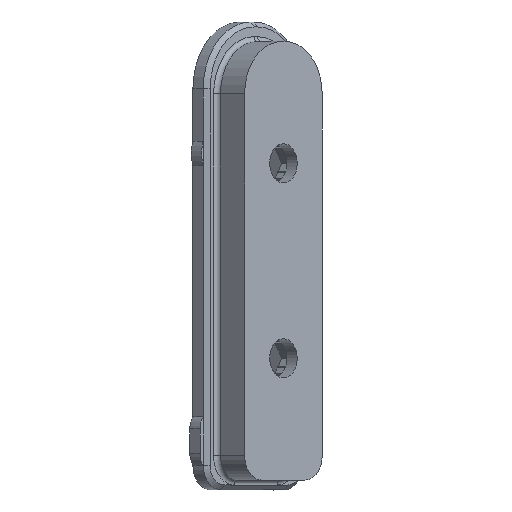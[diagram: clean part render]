
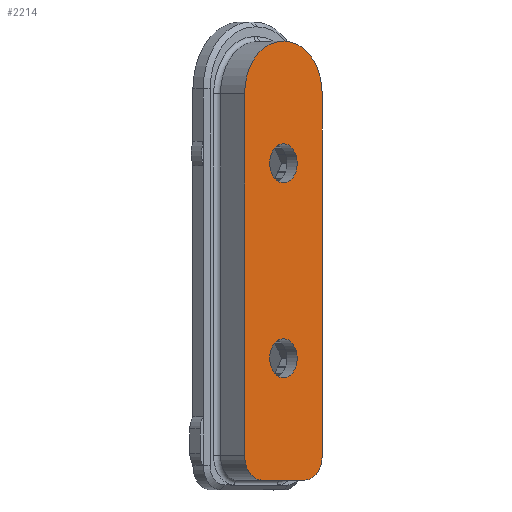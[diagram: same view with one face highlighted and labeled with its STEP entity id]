
A CAD part, top view. The second image highlights one B-rep face of the part: STEP entity #2214.
In plain terms, the highlighted planar face has unit normal (0.707, 0, 0.707).
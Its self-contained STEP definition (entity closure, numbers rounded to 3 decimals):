
#34 = DIRECTION ( 'NONE',  ( -0.707, 0., 0.707 ) ) ;
#61 = AXIS2_PLACEMENT_3D ( 'NONE', #611, #296, #233 ) ;
#142 = CIRCLE ( 'NONE', #712, 4. ) ;
#178 = ORIENTED_EDGE ( 'NONE', *, *, #2998, .F. ) ;
#192 = ORIENTED_EDGE ( 'NONE', *, *, #1647, .F. ) ;
#193 = EDGE_CURVE ( 'NONE', #3113, #2777, #3304, .T. ) ;
#232 = CARTESIAN_POINT ( 'NONE',  ( -15.698, 504.5, 11.455 ) ) ;
#233 = DIRECTION ( 'NONE',  ( -0.707, 0., 0.707 ) ) ;
#241 = EDGE_CURVE ( 'NONE', #2848, #2777, #299, .T. ) ;
#271 = VECTOR ( 'NONE', #3344, 1000. ) ;
#296 = DIRECTION ( 'NONE',  ( -0.707, 0., -0.707 ) ) ;
#299 = LINE ( 'NONE', #2806, #271 ) ;
#322 = ORIENTED_EDGE ( 'NONE', *, *, #3849, .F. ) ;
#374 = ORIENTED_EDGE ( 'NONE', *, *, #193, .T. ) ;
#393 = FACE_OUTER_BOUND ( 'NONE', #2443, .T. ) ;
#507 = CARTESIAN_POINT ( 'NONE',  ( -19.233, 509.5, 14.991 ) ) ;
#508 = AXIS2_PLACEMENT_3D ( 'NONE', #1641, #1312, #2911 ) ;
#611 = CARTESIAN_POINT ( 'NONE',  ( -23.653, 569.5, 19.41 ) ) ;
#616 = LINE ( 'NONE', #2979, #2746 ) ;
#647 = VERTEX_POINT ( 'NONE', #1062 ) ;
#703 = AXIS2_PLACEMENT_3D ( 'NONE', #1558, #892, #827 ) ;
#712 = AXIS2_PLACEMENT_3D ( 'NONE', #3446, #1930, #3624 ) ;
#827 = DIRECTION ( 'NONE',  ( -0.707, 0., 0.707 ) ) ;
#892 = DIRECTION ( 'NONE',  ( -0.707, 0., -0.707 ) ) ;
#1033 = CARTESIAN_POINT ( 'NONE',  ( -23.299, 583.75, 19.057 ) ) ;
#1062 = CARTESIAN_POINT ( 'NONE',  ( -15.698, 509.5, 11.455 ) ) ;
#1099 = EDGE_CURVE ( 'NONE', #3113, #1521, #1448, .T. ) ;
#1162 = CARTESIAN_POINT ( 'NONE',  ( -31.608, 583.75, 27.365 ) ) ;
#1241 = CARTESIAN_POINT ( 'NONE',  ( -26.481, 529.5, 22.239 ) ) ;
#1289 = VERTEX_POINT ( 'NONE', #4252 ) ;
#1291 = ORIENTED_EDGE ( 'NONE', *, *, #241, .F. ) ;
#1312 = DIRECTION ( 'NONE',  ( -0.707, 0., -0.707 ) ) ;
#1448 = LINE ( 'NONE', #1823, #1598 ) ;
#1459 = DIRECTION ( 'NONE',  ( -0.707, 0., 0.707 ) ) ;
#1479 = CIRCLE ( 'NONE', #1686, 5. ) ;
#1521 = VERTEX_POINT ( 'NONE', #1162 ) ;
#1558 = CARTESIAN_POINT ( 'NONE',  ( -24.006, 583.75, 19.764 ) ) ;
#1598 = VECTOR ( 'NONE', #3202, 1000. ) ;
#1641 = CARTESIAN_POINT ( 'NONE',  ( -23.299, 583.75, 19.057 ) ) ;
#1647 = EDGE_CURVE ( 'NONE', #3144, #647, #2617, .T. ) ;
#1686 = AXIS2_PLACEMENT_3D ( 'NONE', #507, #1793, #2528 ) ;
#1793 = DIRECTION ( 'NONE',  ( 0.707, 0., 0.707 ) ) ;
#1823 = CARTESIAN_POINT ( 'NONE',  ( -31.608, 504.5, 27.365 ) ) ;
#1930 = DIRECTION ( 'NONE',  ( -0.707, 0., -0.707 ) ) ;
#1950 = VECTOR ( 'NONE', #3625, 1000. ) ;
#1971 = CIRCLE ( 'NONE', #61, 4. ) ;
#2024 = PLANE ( 'NONE',  #3981 ) ;
#2092 = EDGE_LOOP ( 'NONE', ( #3370 ) ) ;
#2214 = ADVANCED_FACE ( 'NONE', ( #4027, #3089, #393 ), #2024, .F. ) ;
#2378 = AXIS2_PLACEMENT_3D ( 'NONE', #4268, #3326, #1459 ) ;
#2398 = DIRECTION ( 'NONE',  ( -0.707, 0., -0.707 ) ) ;
#2443 = EDGE_LOOP ( 'NONE', ( #1291, #2891, #192, #178, #3883, #322, #2627, #374 ) ) ;
#2476 = EDGE_CURVE ( 'NONE', #3957, #3467, #616, .T. ) ;
#2528 = DIRECTION ( 'NONE',  ( -0.707, 0., 0.707 ) ) ;
#2612 = CARTESIAN_POINT ( 'NONE',  ( -24.006, 594.5, 19.764 ) ) ;
#2617 = LINE ( 'NONE', #232, #1950 ) ;
#2627 = ORIENTED_EDGE ( 'NONE', *, *, #1099, .F. ) ;
#2694 = EDGE_CURVE ( 'NONE', #2848, #647, #1479, .T. ) ;
#2746 = VECTOR ( 'NONE', #4312, 1000. ) ;
#2777 = VERTEX_POINT ( 'NONE', #4194 ) ;
#2796 = EDGE_LOOP ( 'NONE', ( #3522 ) ) ;
#2806 = CARTESIAN_POINT ( 'NONE',  ( -15.698, 504.5, 11.455 ) ) ;
#2848 = VERTEX_POINT ( 'NONE', #3977 ) ;
#2891 = ORIENTED_EDGE ( 'NONE', *, *, #2694, .T. ) ;
#2911 = DIRECTION ( 'NONE',  ( -0.707, 0., 0.707 ) ) ;
#2951 = EDGE_CURVE ( 'NONE', #1289, #1289, #1971, .T. ) ;
#2979 = CARTESIAN_POINT ( 'NONE',  ( -23.299, 594.5, 19.057 ) ) ;
#2998 = EDGE_CURVE ( 'NONE', #3467, #3144, #3532, .T. ) ;
#3089 = FACE_BOUND ( 'NONE', #2796, .T. ) ;
#3113 = VERTEX_POINT ( 'NONE', #4020 ) ;
#3144 = VERTEX_POINT ( 'NONE', #3195 ) ;
#3195 = CARTESIAN_POINT ( 'NONE',  ( -15.698, 583.75, 11.455 ) ) ;
#3202 = DIRECTION ( 'NONE',  ( 0., 1., 0. ) ) ;
#3299 = EDGE_CURVE ( 'NONE', #4317, #4317, #142, .T. ) ;
#3304 = CIRCLE ( 'NONE', #2378, 5. ) ;
#3326 = DIRECTION ( 'NONE',  ( 0.707, 0., 0.707 ) ) ;
#3344 = DIRECTION ( 'NONE',  ( -0.707, 0., 0.707 ) ) ;
#3370 = ORIENTED_EDGE ( 'NONE', *, *, #3299, .T. ) ;
#3446 = CARTESIAN_POINT ( 'NONE',  ( -23.653, 529.5, 19.41 ) ) ;
#3467 = VERTEX_POINT ( 'NONE', #3659 ) ;
#3522 = ORIENTED_EDGE ( 'NONE', *, *, #2951, .T. ) ;
#3532 = CIRCLE ( 'NONE', #508, 10.75 ) ;
#3624 = DIRECTION ( 'NONE',  ( -0.707, 0., 0.707 ) ) ;
#3625 = DIRECTION ( 'NONE',  ( 0., -1., 0. ) ) ;
#3657 = CIRCLE ( 'NONE', #703, 10.75 ) ;
#3659 = CARTESIAN_POINT ( 'NONE',  ( -23.299, 594.5, 19.057 ) ) ;
#3849 = EDGE_CURVE ( 'NONE', #1521, #3957, #3657, .T. ) ;
#3883 = ORIENTED_EDGE ( 'NONE', *, *, #2476, .F. ) ;
#3957 = VERTEX_POINT ( 'NONE', #2612 ) ;
#3977 = CARTESIAN_POINT ( 'NONE',  ( -19.233, 504.5, 14.991 ) ) ;
#3981 = AXIS2_PLACEMENT_3D ( 'NONE', #1033, #2398, #34 ) ;
#4020 = CARTESIAN_POINT ( 'NONE',  ( -31.608, 509.5, 27.365 ) ) ;
#4027 = FACE_BOUND ( 'NONE', #2092, .T. ) ;
#4194 = CARTESIAN_POINT ( 'NONE',  ( -28.072, 504.5, 23.829 ) ) ;
#4252 = CARTESIAN_POINT ( 'NONE',  ( -26.481, 569.5, 22.239 ) ) ;
#4268 = CARTESIAN_POINT ( 'NONE',  ( -28.072, 509.5, 23.829 ) ) ;
#4312 = DIRECTION ( 'NONE',  ( 0.707, 0., -0.707 ) ) ;
#4317 = VERTEX_POINT ( 'NONE', #1241 ) ;
